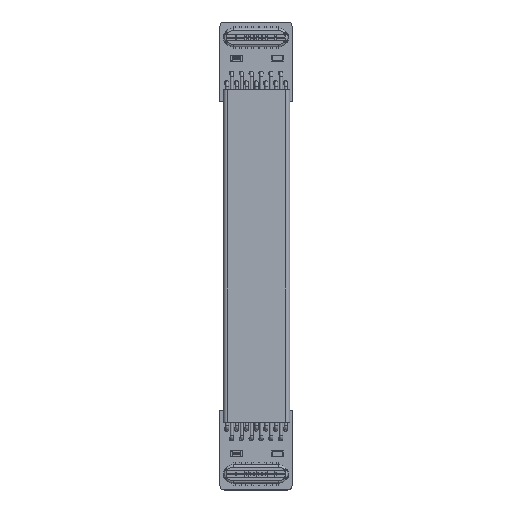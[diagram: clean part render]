
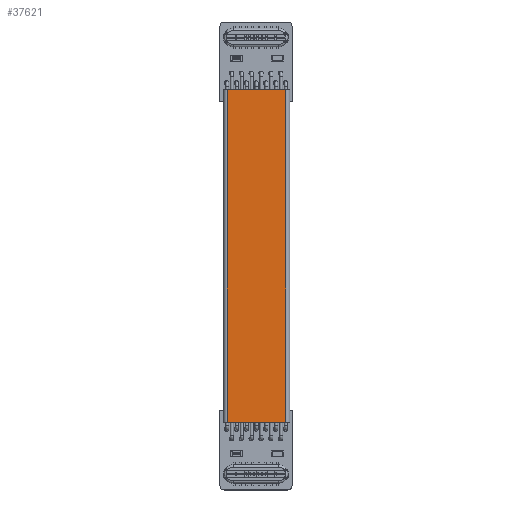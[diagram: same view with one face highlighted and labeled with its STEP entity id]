
A CAD part, top view. The second image highlights one B-rep face of the part: STEP entity #37621.
In plain terms, the highlighted planar face has unit normal (0, 0, 1) as drawn and (0, 1, 0) by its records, which use the part's own axes.
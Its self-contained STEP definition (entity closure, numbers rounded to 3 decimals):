
#37145 = VERTEX_POINT('',#37146);
#37146 = CARTESIAN_POINT('',(-0.001,-0.201,43.));
#37153 = EDGE_CURVE('',#37145,#37154,#37156,.T.);
#37154 = VERTEX_POINT('',#37155);
#37155 = CARTESIAN_POINT('',(-7.621,-0.201,43.));
#37156 = LINE('',#37157,#37158);
#37157 = CARTESIAN_POINT('',(-7.621,-0.201,43.));
#37158 = VECTOR('',#37159,1.);
#37159 = DIRECTION('',(-1.,0.,0.));
#37322 = VERTEX_POINT('',#37323);
#37323 = CARTESIAN_POINT('',(-0.001,-0.201,
    0.));
#37339 = VERTEX_POINT('',#37340);
#37340 = CARTESIAN_POINT('',(-7.621,-0.201,0.));
#37347 = EDGE_CURVE('',#37322,#37339,#37348,.T.);
#37348 = LINE('',#37349,#37350);
#37349 = CARTESIAN_POINT('',(-7.621,-0.201,0.));
#37350 = VECTOR('',#37351,1.);
#37351 = DIRECTION('',(-1.,0.,0.));
#37577 = EDGE_CURVE('',#37322,#37145,#37578,.T.);
#37578 = LINE('',#37579,#37580);
#37579 = CARTESIAN_POINT('',(-0.001,-0.201,
    0.));
#37580 = VECTOR('',#37581,1.);
#37581 = DIRECTION('',(0.,0.,1.));
#37609 = EDGE_CURVE('',#37339,#37154,#37610,.T.);
#37610 = LINE('',#37611,#37612);
#37611 = CARTESIAN_POINT('',(-7.621,-0.201,0.));
#37612 = VECTOR('',#37613,1.);
#37613 = DIRECTION('',(0.,0.,1.));
#37621 = ADVANCED_FACE('',(#37622),#37628,.T.);
#37622 = FACE_BOUND('',#37623,.T.);
#37623 = EDGE_LOOP('',(#37624,#37625,#37626,#37627));
#37624 = ORIENTED_EDGE('',*,*,#37153,.F.);
#37625 = ORIENTED_EDGE('',*,*,#37577,.F.);
#37626 = ORIENTED_EDGE('',*,*,#37347,.T.);
#37627 = ORIENTED_EDGE('',*,*,#37609,.T.);
#37628 = PLANE('',#37629);
#37629 = AXIS2_PLACEMENT_3D('',#37630,#37631,#37632);
#37630 = CARTESIAN_POINT('',(-7.621,-0.201,0.));
#37631 = DIRECTION('',(0.,1.,0.));
#37632 = DIRECTION('',(0.,0.,1.));
